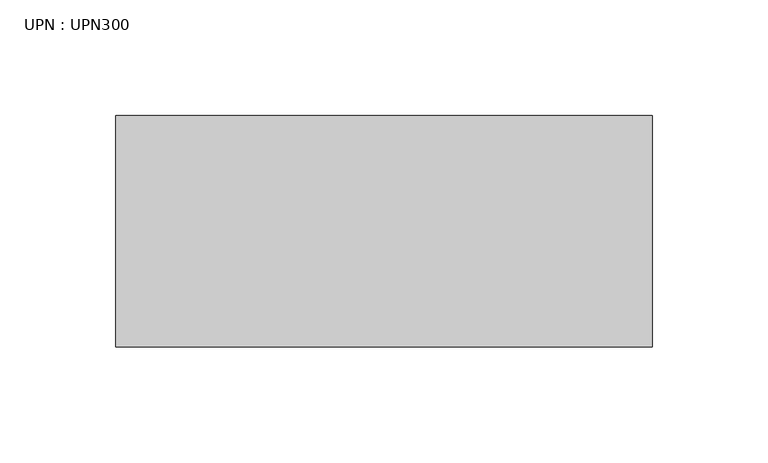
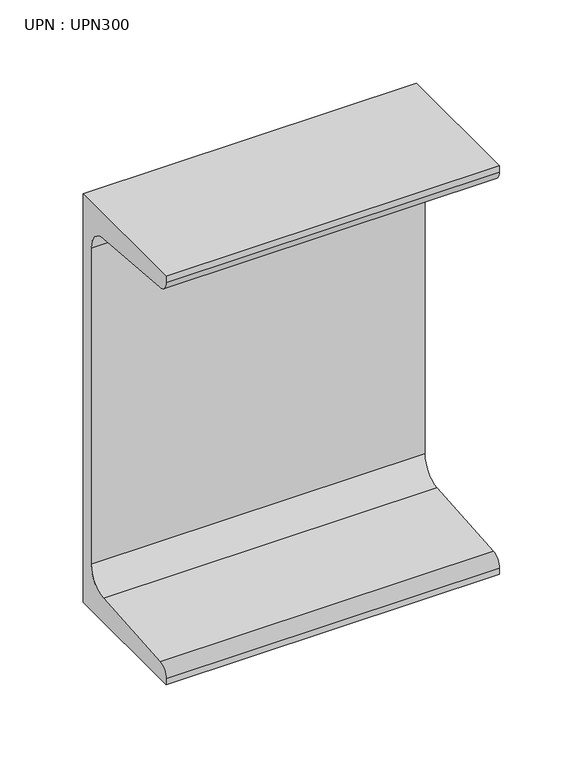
"""IFC4 building model written with IfcOpenShell, lengths in millimetres: beam geometry, UPN : UPN300."""

from ifc_helpers import new_model, si_unit, point, frame, frame_2d, origin, place, context, project, spatial, polyline, circle_curve, trimmed, segment, composite_curve, outline, extrude, source, transform, mapped, element, save


def upn_upn300_7125730d(model_context):
    return source(origin(), model_context, "Body", "SweptSolid", [
        extrude(outline(composite_curve([segment(polyline([(27.0, 150.0), (27.0, -150.0), (-73.0, -150.0), (-73.0, -145.3826224)]), True, "CONTINUOUS"), segment(trimmed(circle_curve(frame_2d((-65.0, -145.3826224)), 8.0), [point((-73.0, -145.3826224))], [point((-65.637416, -137.4080566))], False, "CARTESIAN"), True, "CONTINUOUS"), segment(polyline([(-65.637416, -137.4080566), (2.274832, -131.9797543)]), True, "CONTINUOUS"), segment(trimmed(circle_curve(frame_2d((1.0, -116.0306225)), 16.0), [point((2.274832, -131.9797543))], [point((17.0, -116.0306225))], True, "CARTESIAN"), True, "CONTINUOUS"), segment(polyline([(17.0, -116.0306225), (17.0, 116.0306225)]), True, "CONTINUOUS"), segment(trimmed(circle_curve(frame_2d((1.0, 116.0306225)), 16.0), [point((17.0, 116.0306225))], [point((2.274832, 131.9797543))], True, "CARTESIAN"), True, "CONTINUOUS"), segment(polyline([(2.274832, 131.9797543), (-65.637416, 137.4080566)]), True, "CONTINUOUS"), segment(trimmed(circle_curve(frame_2d((-65.0, 145.3826224)), 8.0), [point((-65.637416, 137.4080566))], [point((-73.0, 145.3826224))], False, "CARTESIAN"), True, "CONTINUOUS"), segment(polyline([(-73.0, 145.3826224), (-73.0, 150.0), (27.0, 150.0)]), True, "CONTINUOUS")], self_intersect=False)), frame((-130.8, 0.0, 0.0), z_axis=(1.0, 0.0, 0.0), x_axis=(0.0, 1.0, 0.0)), (0.0, 0.0, 1.0), 231.7),
    ])


if __name__ == "__main__":
    model = new_model("IFC4")
    model_context = context("Model", 3, world=origin())
    ifc_project = project(units=[si_unit("LENGTHUNIT", "METRE", prefix="MILLI")], contexts=[model_context])
    site = spatial("IfcSite", under=ifc_project)
    building = spatial("IfcBuilding", under=site)
    placement = place(None, origin())
    upn_upn300_shape = upn_upn300_7125730d(model_context)
    element("IfcBeam", 1, ObjectType="UPN : UPN300", at=placement, inside=building, context=model_context, shape_type="MappedRepresentation", body=[
        mapped(upn_upn300_shape, transform((0.0, 0.0, 0.0), x_axis=(1.0, 0.0, 0.0), y_axis=(0.0, 1.0, 0.0), z_axis=(0.0, 0.0, 1.0))),
    ])
    save(model, "model.ifc")
